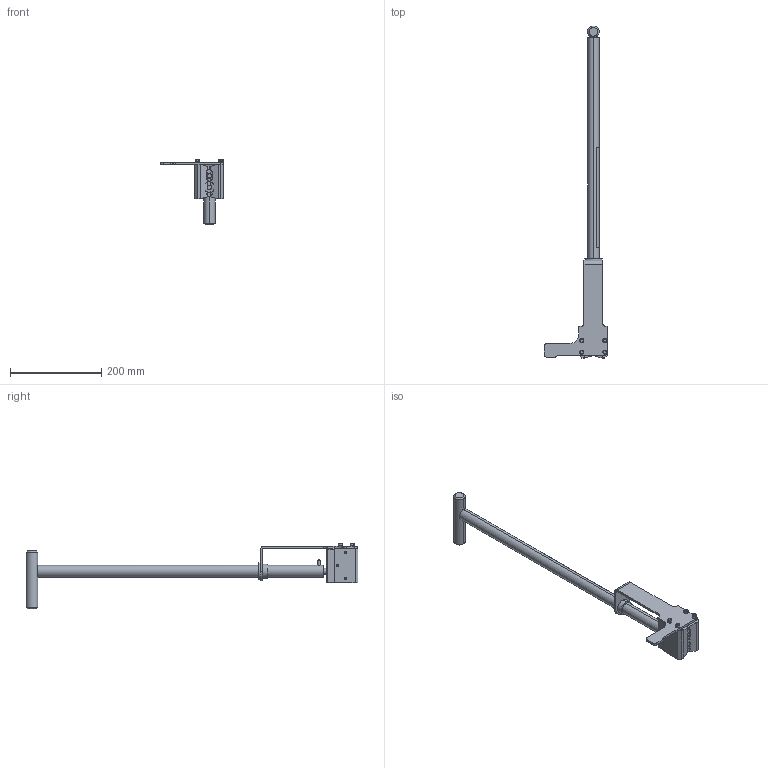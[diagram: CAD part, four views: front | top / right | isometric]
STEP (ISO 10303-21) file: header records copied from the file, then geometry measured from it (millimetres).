
FILE_DESCRIPTION (( 'STEP AP203' ), '1' );
FILE_NAME ('MCLVB01.STEP', '2018-08-20T19:58:15', ( '' ), ( '' ), 'SwSTEP 2.0', 'SolidWorks 2015', '' );
FILE_SCHEMA (( 'CONFIG_CONTROL_DESIGN' ));
Length unit declared in the file: inch
Products named in the file (1): MCLVB01
Bounding box: 139.7 x 728.41 x 144.13 mm (x, y, z)
Volume: 709302.8 mm3; surface area: 177619.4 mm2
Topology: 21 solids, 21 shells, 1225 faces, 2704 edges, 1495 vertices
Faces by surface type: cone 472, cylinder 468, plane 197, torus 60, bspline 14, sphere 14
Entity records: 33787 total; most frequent: CARTESIAN_POINT 6669, DIRECTION 6222, ORIENTED_EDGE 5254, EDGE_CURVE 2627, AXIS2_PLACEMENT_3D 2460, VERTEX_POINT 1488, EDGE_LOOP 1303, VECTOR 1302
